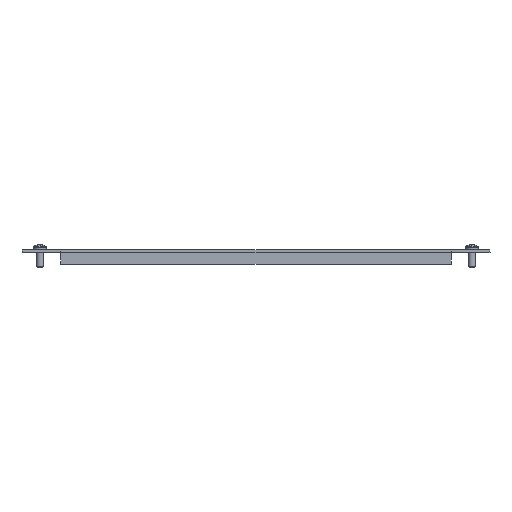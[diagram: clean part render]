
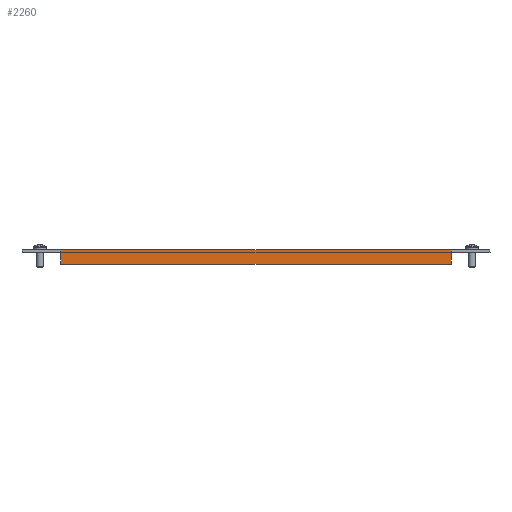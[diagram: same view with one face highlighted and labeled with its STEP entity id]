
A CAD part, front view. The second image highlights one B-rep face of the part: STEP entity #2260.
In plain terms, the highlighted planar face has unit normal (0, -1, 0).
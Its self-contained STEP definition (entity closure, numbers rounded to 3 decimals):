
#22 = CARTESIAN_POINT ( 'NONE',  ( -135.5, -535., -2.4 ) ) ;
#133 = ORIENTED_EDGE ( 'NONE', *, *, #431, .F. ) ;
#158 = ORIENTED_EDGE ( 'NONE', *, *, #843, .T. ) ;
#191 = CARTESIAN_POINT ( 'NONE',  ( 0., -535., 0. ) ) ;
#212 = LINE ( 'NONE', #191, #4395 ) ;
#266 = ORIENTED_EDGE ( 'NONE', *, *, #3348, .T. ) ;
#301 = DIRECTION ( 'NONE',  ( 0., 0., 1. ) ) ;
#322 = CARTESIAN_POINT ( 'NONE',  ( -135.5, -535., -1.8 ) ) ;
#431 = EDGE_CURVE ( 'NONE', #1773, #4253, #3806, .T. ) ;
#673 = CARTESIAN_POINT ( 'NONE',  ( 135.5, -535., -2.4 ) ) ;
#749 = EDGE_CURVE ( 'NONE', #4048, #1773, #2456, .T. ) ;
#767 = CARTESIAN_POINT ( 'NONE',  ( 135.5, -535., -2.4 ) ) ;
#843 = EDGE_CURVE ( 'NONE', #3391, #2915, #212, .T. ) ;
#937 = DIRECTION ( 'NONE',  ( 0., -1., 0. ) ) ;
#968 = VECTOR ( 'NONE', #1599, 1000. ) ;
#1116 = ORIENTED_EDGE ( 'NONE', *, *, #2994, .F. ) ;
#1424 = LINE ( 'NONE', #2974, #4666 ) ;
#1599 = DIRECTION ( 'NONE',  ( 0., 0., 1. ) ) ;
#1680 = CARTESIAN_POINT ( 'NONE',  ( -135.5, -535., -10. ) ) ;
#1773 = VERTEX_POINT ( 'NONE', #2827 ) ;
#1784 = DIRECTION ( 'NONE',  ( -1., 0., 0. ) ) ;
#1916 = DIRECTION ( 'NONE',  ( 0., 0., 1. ) ) ;
#2081 = CARTESIAN_POINT ( 'NONE',  ( -135.5, -535., 0. ) ) ;
#2146 = DIRECTION ( 'NONE',  ( 0., 0., -1. ) ) ;
#2173 = VERTEX_POINT ( 'NONE', #673 ) ;
#2260 = ADVANCED_FACE ( 'NONE', ( #4875 ), #3646, .T. ) ;
#2445 = VECTOR ( 'NONE', #1916, 1000. ) ;
#2456 = LINE ( 'NONE', #1680, #3647 ) ;
#2563 = DIRECTION ( 'NONE',  ( 0., 0., -1. ) ) ;
#2827 = CARTESIAN_POINT ( 'NONE',  ( -135.5, -535., -10. ) ) ;
#2870 = DIRECTION ( 'NONE',  ( -1., 0., 0. ) ) ;
#2915 = VERTEX_POINT ( 'NONE', #3253 ) ;
#2923 = LINE ( 'NONE', #2081, #968 ) ;
#2974 = CARTESIAN_POINT ( 'NONE',  ( 135.5, -535., -10. ) ) ;
#2994 = EDGE_CURVE ( 'NONE', #2173, #4048, #1424, .T. ) ;
#3069 = VECTOR ( 'NONE', #301, 1000. ) ;
#3138 = CARTESIAN_POINT ( 'NONE',  ( 135.5, -535., 0. ) ) ;
#3164 = EDGE_LOOP ( 'NONE', ( #1116, #266, #158, #4558, #133, #4054 ) ) ;
#3253 = CARTESIAN_POINT ( 'NONE',  ( -135.5, -535., 0. ) ) ;
#3348 = EDGE_CURVE ( 'NONE', #2173, #3391, #3572, .T. ) ;
#3391 = VERTEX_POINT ( 'NONE', #3138 ) ;
#3572 = LINE ( 'NONE', #767, #2445 ) ;
#3612 = EDGE_CURVE ( 'NONE', #4253, #2915, #2923, .T. ) ;
#3646 = PLANE ( 'NONE',  #4693 ) ;
#3647 = VECTOR ( 'NONE', #2870, 1000. ) ;
#3806 = LINE ( 'NONE', #322, #3069 ) ;
#4048 = VERTEX_POINT ( 'NONE', #4425 ) ;
#4049 = CARTESIAN_POINT ( 'NONE',  ( 0., -535., 0. ) ) ;
#4054 = ORIENTED_EDGE ( 'NONE', *, *, #749, .F. ) ;
#4253 = VERTEX_POINT ( 'NONE', #22 ) ;
#4395 = VECTOR ( 'NONE', #1784, 1000. ) ;
#4425 = CARTESIAN_POINT ( 'NONE',  ( 135.5, -535., -10. ) ) ;
#4558 = ORIENTED_EDGE ( 'NONE', *, *, #3612, .F. ) ;
#4666 = VECTOR ( 'NONE', #2563, 1000. ) ;
#4693 = AXIS2_PLACEMENT_3D ( 'NONE', #4049, #937, #2146 ) ;
#4875 = FACE_OUTER_BOUND ( 'NONE', #3164, .T. ) ;
